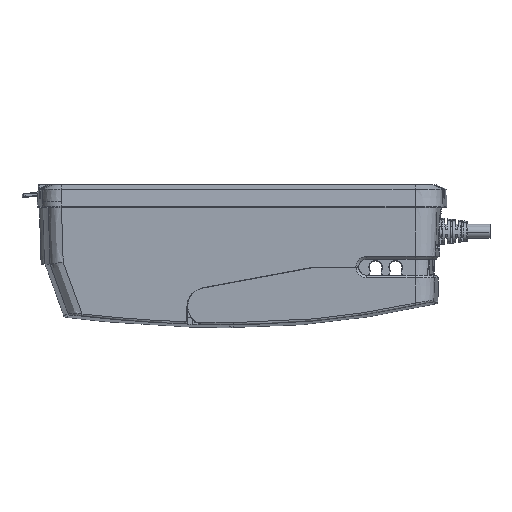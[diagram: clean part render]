
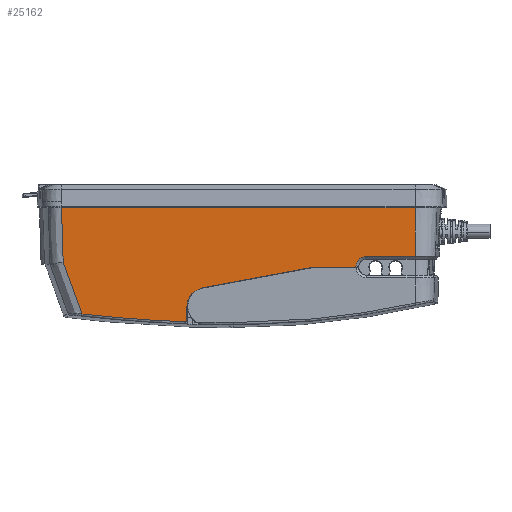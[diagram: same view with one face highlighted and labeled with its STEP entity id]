
A CAD part, front view. The second image highlights one B-rep face of the part: STEP entity #25162.
In plain terms, the highlighted planar face has unit normal (0, -0.999, -0.035).
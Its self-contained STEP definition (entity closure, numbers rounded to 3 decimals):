
#3277=DIRECTION('',(-1.,0.,0.));
#3278=VECTOR('',#3277,18.389);
#3279=CARTESIAN_POINT('',(50.142,-41.969,
-24.025));
#3280=LINE('',#3279,#3278);
#3281=DIRECTION('',(-0.983,0.006,-0.183));
#3282=VECTOR('',#3281,50.535);
#3283=CARTESIAN_POINT('',(30.841,-41.966,
-24.109));
#3284=LINE('',#3283,#3282);
#3285=DIRECTION('',(0.,-0.035,0.999));
#3286=VECTOR('',#3285,6.922);
#3287=CARTESIAN_POINT('',(-25.775,-41.11,
-48.617));
#3288=LINE('',#3287,#3286);
#3289=CARTESIAN_POINT('',(-5.,-61.893,546.532));
#3290=DIRECTION('',(0.,-0.999,-0.035));
#3291=DIRECTION('',(-0.114,0.035,-0.993));
#3292=AXIS2_PLACEMENT_3D('',#3289,#3290,#3291);
#3294=CARTESIAN_POINT('',(-81.423,-42.048,
-21.756));
#3295=CARTESIAN_POINT('',(-79.993,-41.91,
-25.704));
#3296=CARTESIAN_POINT('',(-77.153,-41.637,
-33.54));
#3297=CARTESIAN_POINT('',(-74.355,-41.367,
-41.261));
#3298=CARTESIAN_POINT('',(-72.966,-41.233,
-45.092));
#3300=CARTESIAN_POINT('',(-82.177,-42.902,
2.7));
#3301=CARTESIAN_POINT('',(-82.052,-42.76,
-1.383));
#3302=CARTESIAN_POINT('',(-81.8,-42.475,
-9.542));
#3303=CARTESIAN_POINT('',(-81.549,-42.19,
-17.687));
#3304=CARTESIAN_POINT('',(-81.423,-42.048,
-21.756));
#3306=DIRECTION('',(-1.,0.,0.));
#3307=VECTOR('',#3306,158.891);
#3308=CARTESIAN_POINT('',(76.714,-42.902,2.7));
#3309=LINE('',#3308,#3307);
#3310=DIRECTION('',(1.,0.,0.));
#3311=VECTOR('',#3310,21.685);
#3312=CARTESIAN_POINT('',(55.029,-42.137,
-19.226));
#3313=LINE('',#3312,#3311);
#3314=CARTESIAN_POINT('',(50.145,-41.972,
-23.951));
#3315=CARTESIAN_POINT('',(50.151,-41.978,
-23.772));
#3316=CARTESIAN_POINT('',(50.183,-41.99,
-23.414));
#3317=CARTESIAN_POINT('',(50.29,-42.009,
-22.885));
#3318=CARTESIAN_POINT('',(50.454,-42.027,
-22.373));
#3319=CARTESIAN_POINT('',(50.673,-42.044,
-21.88));
#3320=CARTESIAN_POINT('',(50.945,-42.06,
-21.415));
#3321=CARTESIAN_POINT('',(51.265,-42.075,
-20.983));
#3322=CARTESIAN_POINT('',(51.631,-42.089,
-20.589));
#3323=CARTESIAN_POINT('',(52.038,-42.101,
-20.237));
#3324=CARTESIAN_POINT('',(52.48,-42.112,
-19.933));
#3325=CARTESIAN_POINT('',(52.953,-42.121,
-19.678));
#3326=CARTESIAN_POINT('',(53.451,-42.128,
-19.478));
#3327=CARTESIAN_POINT('',(53.968,-42.133,
-19.332));
#3328=CARTESIAN_POINT('',(54.498,-42.136,
-19.245));
#3329=CARTESIAN_POINT('',(54.852,-42.137,
-19.226));
#3330=CARTESIAN_POINT('',(55.029,-42.137,
-19.226));
#3332=DIRECTION('',(0.035,-0.035,0.999));
#3333=VECTOR('',#3332,0.074);
#3334=CARTESIAN_POINT('',(50.142,-41.969,
-24.025));
#3335=LINE('',#3334,#3333);
#3344=CARTESIAN_POINT('',(30.841,-41.966,
-24.109));
#3345=CARTESIAN_POINT('',(31.142,-41.968,
-24.053));
#3346=CARTESIAN_POINT('',(31.446,-41.969,
-24.025));
#3347=CARTESIAN_POINT('',(31.753,-41.969,
-24.025));
#3377=CARTESIAN_POINT('',(-25.775,-41.352,
-41.698));
#3378=CARTESIAN_POINT('',(-25.775,-41.372,
-41.11));
#3379=CARTESIAN_POINT('',(-25.657,-41.41,
-40.032));
#3380=CARTESIAN_POINT('',(-25.1,-41.476,
-38.144));
#3381=CARTESIAN_POINT('',(-23.925,-41.544,
-36.181));
#3382=CARTESIAN_POINT('',(-22.212,-41.597,
-34.664));
#3383=CARTESIAN_POINT('',(-20.458,-41.629,
-33.769));
#3384=CARTESIAN_POINT('',(-19.42,-41.64,
-33.456));
#3385=CARTESIAN_POINT('',(-18.842,-41.643,
-33.348));
#3404=DIRECTION('',(0.,0.035,-0.999));
#3405=VECTOR('',#3404,21.939);
#3406=CARTESIAN_POINT('',(76.714,-42.902,2.7));
#3407=LINE('',#3406,#3405);
#3698=CARTESIAN_POINT('',(-72.966,-41.233,
-45.092));
#3715=CARTESIAN_POINT('',(-81.423,-42.048,
-21.756));
#19268=VERTEX_POINT('',#3715);
#19756=VERTEX_POINT('',#3698);
#19759=CARTESIAN_POINT('',(-25.775,-41.11,
-48.617));
#19760=VERTEX_POINT('',#19759);
#19836=CARTESIAN_POINT('',(50.142,-41.969,
-24.025));
#19837=CARTESIAN_POINT('',(50.145,-41.972,
-23.951));
#19838=VERTEX_POINT('',#19836);
#19839=VERTEX_POINT('',#19837);
#20625=CARTESIAN_POINT('',(76.714,-42.902,2.7));
#20626=CARTESIAN_POINT('',(-82.177,-42.902,
2.7));
#20627=VERTEX_POINT('',#20625);
#20628=VERTEX_POINT('',#20626);
#20690=CARTESIAN_POINT('',(-25.775,-41.352,
-41.698));
#20691=VERTEX_POINT('',#20690);
#20692=CARTESIAN_POINT('',(-18.842,-41.643,
-33.348));
#20693=VERTEX_POINT('',#20692);
#20714=CARTESIAN_POINT('',(76.714,-42.137,
-19.226));
#20715=VERTEX_POINT('',#20714);
#20718=CARTESIAN_POINT('',(55.029,-42.137,
-19.226));
#20719=VERTEX_POINT('',#20718);
#20801=CARTESIAN_POINT('',(31.753,-41.969,
-24.025));
#20803=VERTEX_POINT('',#20801);
#20806=CARTESIAN_POINT('',(30.841,-41.966,
-24.109));
#20807=VERTEX_POINT('',#20806);
#25131=CARTESIAN_POINT('',(-109.6,-43.,5.5));
#25132=DIRECTION('',(0.,-0.999,-0.035));
#25133=DIRECTION('',(-1.,0.,0.));
#25134=AXIS2_PLACEMENT_3D('',#25131,#25132,#25133);
#25135=PLANE('',#25134);
#25137=ORIENTED_EDGE('',*,*,#25136,.T.);
#25139=ORIENTED_EDGE('',*,*,#25138,.F.);
#25141=ORIENTED_EDGE('',*,*,#25140,.T.);
#25143=ORIENTED_EDGE('',*,*,#25142,.F.);
#25144=ORIENTED_EDGE('',*,*,#24991,.F.);
#25145=ORIENTED_EDGE('',*,*,#25122,.F.);
#25147=ORIENTED_EDGE('',*,*,#25146,.F.);
#25149=ORIENTED_EDGE('',*,*,#25148,.F.);
#25151=ORIENTED_EDGE('',*,*,#25150,.F.);
#25153=ORIENTED_EDGE('',*,*,#25152,.T.);
#25155=ORIENTED_EDGE('',*,*,#25154,.F.);
#25157=ORIENTED_EDGE('',*,*,#25156,.F.);
#25159=ORIENTED_EDGE('',*,*,#25158,.F.);
#25160=EDGE_LOOP('',(#25137,#25139,#25141,#25143,#25144,#25145,#25147,#25149,
#25151,#25153,#25155,#25157,#25159));
#25161=FACE_OUTER_BOUND('',#25160,.F.);
#3293=CIRCLE('',#3292,595.874);
#3299=B_SPLINE_CURVE_WITH_KNOTS('',3,(#3294,#3295,#3296,#3297,#3298),
.UNSPECIFIED.,.F.,.F.,(4,1,4),(0.,0.5,1.),.UNSPECIFIED.);
#3305=B_SPLINE_CURVE_WITH_KNOTS('',3,(#3300,#3301,#3302,#3303,#3304),
.UNSPECIFIED.,.F.,.F.,(4,1,4),(0.,0.5,1.),.UNSPECIFIED.);
#3331=B_SPLINE_CURVE_WITH_KNOTS('',3,(#3314,#3315,#3316,#3317,#3318,#3319,#3320,
#3321,#3322,#3323,#3324,#3325,#3326,#3327,#3328,#3329,#3330),.UNSPECIFIED.,.F.,
.F.,(4,1,1,1,1,1,1,1,1,1,1,1,1,1,4),(0.,0.071,0.143,
0.214,0.286,0.357,0.429,0.5,
0.571,0.643,0.714,0.786,
0.857,0.929,1.),.UNSPECIFIED.);
#3348=B_SPLINE_CURVE_WITH_KNOTS('',3,(#3344,#3345,#3346,#3347),.UNSPECIFIED.,
.F.,.F.,(4,4),(0.,1.),.UNSPECIFIED.);
#3386=B_SPLINE_CURVE_WITH_KNOTS('',3,(#3377,#3378,#3379,#3380,#3381,#3382,#3383,
#3384,#3385),.UNSPECIFIED.,.F.,.F.,(4,1,1,1,1,1,4),(0.,0.125,0.25,0.5,
0.75,0.875,1.),.UNSPECIFIED.);
#24991=EDGE_CURVE('',#19760,#20691,#3288,.T.);
#25122=EDGE_CURVE('',#19756,#19760,#3293,.T.);
#25136=EDGE_CURVE('',#19838,#20803,#3280,.T.);
#25138=EDGE_CURVE('',#20807,#20803,#3348,.T.);
#25140=EDGE_CURVE('',#20807,#20693,#3284,.T.);
#25142=EDGE_CURVE('',#20691,#20693,#3386,.T.);
#25146=EDGE_CURVE('',#19268,#19756,#3299,.T.);
#25148=EDGE_CURVE('',#20628,#19268,#3305,.T.);
#25150=EDGE_CURVE('',#20627,#20628,#3309,.T.);
#25152=EDGE_CURVE('',#20627,#20715,#3407,.T.);
#25154=EDGE_CURVE('',#20719,#20715,#3313,.T.);
#25156=EDGE_CURVE('',#19839,#20719,#3331,.T.);
#25158=EDGE_CURVE('',#19838,#19839,#3335,.T.);
#25162=ADVANCED_FACE('',(#25161),#25135,.T.);
